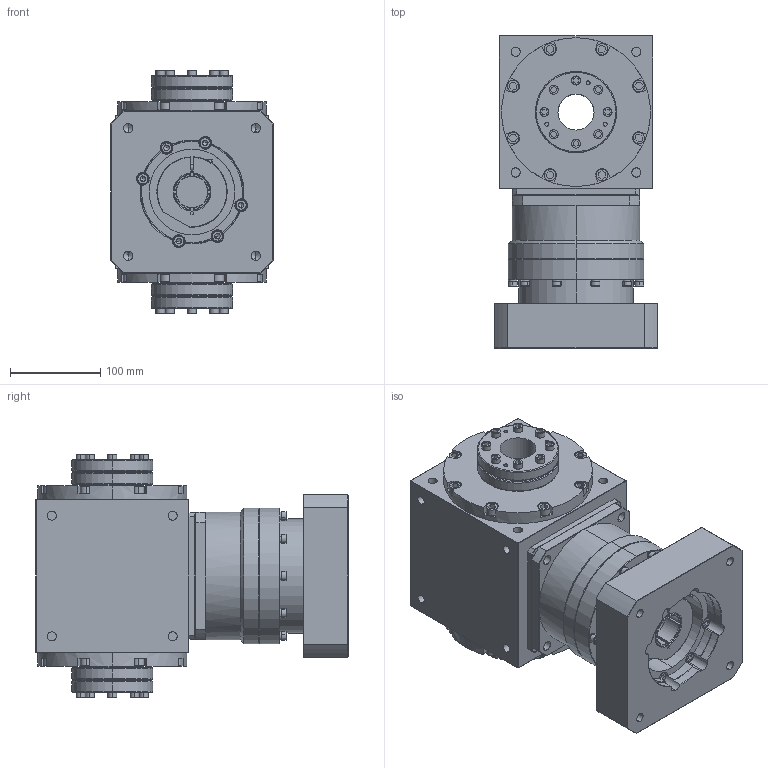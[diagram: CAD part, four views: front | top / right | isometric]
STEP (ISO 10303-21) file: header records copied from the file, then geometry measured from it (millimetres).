
FILE_DESCRIPTION (( 'STEP AP203' ), '1' );
FILE_NAME ('AT170-FC-L1 35-114.3-200-M12.STEP', '2024-12-25T07:24:13', ( '' ), ( '' ), 'SwSTEP 2.0', 'SolidWorks 2021', '' );
FILE_SCHEMA (( 'CONFIG_CONTROL_DESIGN' ));
Length unit declared in the file: millimetre
Products named in the file (3): AT170-FC-L1 35-114.3-200-M12; VRB-142-L1-S2-P1 35-114.3-200-M12
Assembly tree (2 placements, depth 2):
  AT170-FC-L1 35-114.3-200-M12
    AT170-FC-L1 35-114.3-200-M12
    VRB-142-L1-S2-P1 35-114.3-200-M12
Bounding box: 180 x 347 x 270 mm (x, y, z)
Volume: 8779024.7 mm3; surface area: 606681.9 mm2
Topology: 40 solids, 40 shells, 1521 faces, 3683 edges, 2314 vertices
Faces by surface type: plane 798, cylinder 508, cone 157, torus 34, bspline 24
Entity records: 45325 total; most frequent: CARTESIAN_POINT 9363, DIRECTION 7678, ORIENTED_EDGE 7254, EDGE_CURVE 3627, AXIS2_PLACEMENT_3D 2853, VERTEX_POINT 2314, VECTOR 1972, LINE 1972
